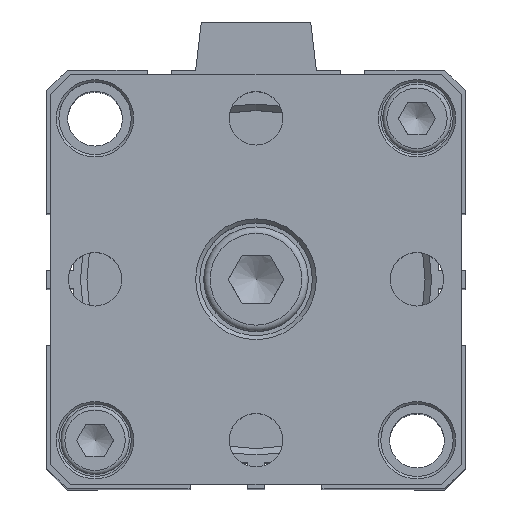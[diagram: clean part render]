
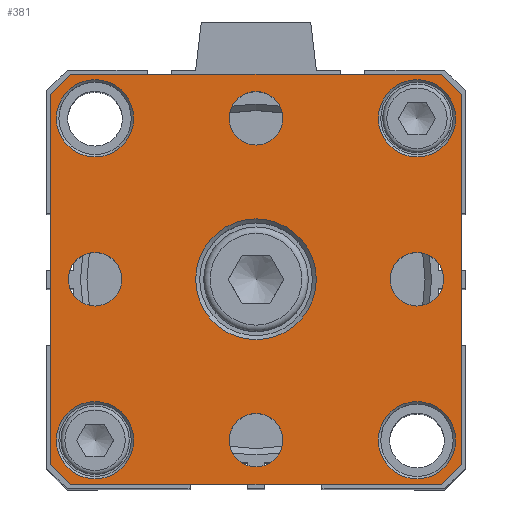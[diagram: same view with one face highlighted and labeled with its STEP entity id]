
A CAD part, top view. The second image highlights one B-rep face of the part: STEP entity #381.
In plain terms, the highlighted planar face has unit normal (0, 0, 1).
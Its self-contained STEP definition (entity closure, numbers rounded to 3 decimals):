
#207=CARTESIAN_POINT('',(25.398,21.555,106.1));
#208=VERTEX_POINT('',#207);
#209=CARTESIAN_POINT('',(20.598,21.555,106.1));
#210=DIRECTION('',(0.0,0.0,1.0));
#211=DIRECTION('',(-1.0,0.0,0.0));
#212=AXIS2_PLACEMENT_3D('',#209,#210,#211);
#213=CIRCLE('',#212,4.8);
#214=EDGE_CURVE('',#208,#208,#213,.T.);
#219=CARTESIAN_POINT('',(0.598,1.555,106.1));
#220=DIRECTION('',(0.0,0.0,1.0));
#221=DIRECTION('',(1.0,0.0,0.0));
#222=AXIS2_PLACEMENT_3D('',#219,#220,#221);
#223=PLANE('',#222);
#224=CARTESIAN_POINT('',(-24.902,24.555,106.1));
#225=VERTEX_POINT('',#224);
#226=CARTESIAN_POINT('',(-22.402,27.055,106.1));
#227=VERTEX_POINT('',#226);
#228=CARTESIAN_POINT('',(-24.902,24.555,106.1));
#229=DIRECTION('',(0.707,0.707,0.0));
#230=VECTOR('',#229,3.536);
#231=LINE('',#228,#230);
#232=EDGE_CURVE('',#225,#227,#231,.T.);
#233=ORIENTED_EDGE('',*,*,#232,.F.);
#234=CARTESIAN_POINT('',(-24.902,-21.445,106.1));
#235=VERTEX_POINT('',#234);
#236=CARTESIAN_POINT('',(-24.902,-21.445,106.1));
#237=DIRECTION('',(0.0,1.0,0.0));
#238=VECTOR('',#237,46.);
#239=LINE('',#236,#238);
#240=EDGE_CURVE('',#235,#225,#239,.T.);
#241=ORIENTED_EDGE('',*,*,#240,.F.);
#242=CARTESIAN_POINT('',(-22.402,-23.945,106.1));
#243=VERTEX_POINT('',#242);
#244=CARTESIAN_POINT('',(-22.402,-23.945,106.1));
#245=DIRECTION('',(-0.707,0.707,0.0));
#246=VECTOR('',#245,3.536);
#247=LINE('',#244,#246);
#248=EDGE_CURVE('',#243,#235,#247,.T.);
#249=ORIENTED_EDGE('',*,*,#248,.F.);
#250=CARTESIAN_POINT('',(23.598,-23.945,106.1));
#251=VERTEX_POINT('',#250);
#252=CARTESIAN_POINT('',(23.598,-23.945,106.1));
#253=DIRECTION('',(-1.0,0.0,0.0));
#254=VECTOR('',#253,46.);
#255=LINE('',#252,#254);
#256=EDGE_CURVE('',#251,#243,#255,.T.);
#257=ORIENTED_EDGE('',*,*,#256,.F.);
#258=CARTESIAN_POINT('',(26.098,-21.445,106.1));
#259=VERTEX_POINT('',#258);
#260=CARTESIAN_POINT('',(26.098,-21.445,106.1));
#261=DIRECTION('',(-0.707,-0.707,0.0));
#262=VECTOR('',#261,3.536);
#263=LINE('',#260,#262);
#264=EDGE_CURVE('',#259,#251,#263,.T.);
#265=ORIENTED_EDGE('',*,*,#264,.F.);
#266=CARTESIAN_POINT('',(26.098,24.555,106.1));
#267=VERTEX_POINT('',#266);
#268=CARTESIAN_POINT('',(26.098,24.555,106.1));
#269=DIRECTION('',(0.0,-1.0,0.0));
#270=VECTOR('',#269,46.);
#271=LINE('',#268,#270);
#272=EDGE_CURVE('',#267,#259,#271,.T.);
#273=ORIENTED_EDGE('',*,*,#272,.F.);
#274=CARTESIAN_POINT('',(23.598,27.055,106.1));
#275=VERTEX_POINT('',#274);
#276=CARTESIAN_POINT('',(23.598,27.055,106.1));
#277=DIRECTION('',(0.707,-0.707,0.0));
#278=VECTOR('',#277,3.536);
#279=LINE('',#276,#278);
#280=EDGE_CURVE('',#275,#267,#279,.T.);
#281=ORIENTED_EDGE('',*,*,#280,.F.);
#282=CARTESIAN_POINT('',(-22.402,27.055,106.1));
#283=DIRECTION('',(1.0,0.0,0.0));
#284=VECTOR('',#283,46.);
#285=LINE('',#282,#284);
#286=EDGE_CURVE('',#227,#275,#285,.T.);
#287=ORIENTED_EDGE('',*,*,#286,.F.);
#288=EDGE_LOOP('',(#233,#241,#249,#257,#265,#273,#281,#287));
#289=FACE_OUTER_BOUND('',#288,.T.);
#290=CARTESIAN_POINT('',(25.398,-18.445,106.1));
#291=VERTEX_POINT('',#290);
#292=CARTESIAN_POINT('',(20.598,-18.445,106.1));
#293=DIRECTION('',(0.0,0.0,1.0));
#294=DIRECTION('',(-1.0,0.0,0.0));
#295=AXIS2_PLACEMENT_3D('',#292,#293,#294);
#296=CIRCLE('',#295,4.8);
#297=EDGE_CURVE('',#291,#291,#296,.T.);
#298=ORIENTED_EDGE('',*,*,#297,.F.);
#299=EDGE_LOOP('',(#298));
#300=FACE_BOUND('',#299,.T.);
#301=CARTESIAN_POINT('',(-14.602,21.555,106.1));
#302=VERTEX_POINT('',#301);
#303=CARTESIAN_POINT('',(-19.402,21.555,106.1));
#304=DIRECTION('',(0.0,0.0,1.0));
#305=DIRECTION('',(-1.0,0.0,0.0));
#306=AXIS2_PLACEMENT_3D('',#303,#304,#305);
#307=CIRCLE('',#306,4.8);
#308=EDGE_CURVE('',#302,#302,#307,.T.);
#309=ORIENTED_EDGE('',*,*,#308,.F.);
#310=EDGE_LOOP('',(#309));
#311=FACE_BOUND('',#310,.T.);
#312=CARTESIAN_POINT('',(3.922,21.555,106.1));
#313=VERTEX_POINT('',#312);
#314=CARTESIAN_POINT('',(0.598,21.555,106.1));
#315=DIRECTION('',(0.0,0.0,-1.0));
#316=DIRECTION('',(1.0,0.0,0.0));
#317=AXIS2_PLACEMENT_3D('',#314,#315,#316);
#318=CIRCLE('',#317,3.324);
#319=EDGE_CURVE('',#313,#313,#318,.T.);
#320=ORIENTED_EDGE('',*,*,#319,.T.);
#321=EDGE_LOOP('',(#320));
#322=FACE_BOUND('',#321,.T.);
#323=CARTESIAN_POINT('',(-16.078,1.555,106.1));
#324=VERTEX_POINT('',#323);
#325=CARTESIAN_POINT('',(-19.402,1.555,106.1));
#326=DIRECTION('',(0.0,0.0,-1.0));
#327=DIRECTION('',(1.0,0.0,0.0));
#328=AXIS2_PLACEMENT_3D('',#325,#326,#327);
#329=CIRCLE('',#328,3.324);
#330=EDGE_CURVE('',#324,#324,#329,.T.);
#331=ORIENTED_EDGE('',*,*,#330,.T.);
#332=EDGE_LOOP('',(#331));
#333=FACE_BOUND('',#332,.T.);
#334=CARTESIAN_POINT('',(3.922,-18.445,106.1));
#335=VERTEX_POINT('',#334);
#336=CARTESIAN_POINT('',(0.598,-18.445,106.1));
#337=DIRECTION('',(0.0,0.0,-1.0));
#338=DIRECTION('',(1.0,0.0,0.0));
#339=AXIS2_PLACEMENT_3D('',#336,#337,#338);
#340=CIRCLE('',#339,3.324);
#341=EDGE_CURVE('',#335,#335,#340,.T.);
#342=ORIENTED_EDGE('',*,*,#341,.T.);
#343=EDGE_LOOP('',(#342));
#344=FACE_BOUND('',#343,.T.);
#345=CARTESIAN_POINT('',(23.922,1.555,106.1));
#346=VERTEX_POINT('',#345);
#347=CARTESIAN_POINT('',(20.598,1.555,106.1));
#348=DIRECTION('',(0.0,0.0,-1.0));
#349=DIRECTION('',(1.0,0.0,0.0));
#350=AXIS2_PLACEMENT_3D('',#347,#348,#349);
#351=CIRCLE('',#350,3.324);
#352=EDGE_CURVE('',#346,#346,#351,.T.);
#353=ORIENTED_EDGE('',*,*,#352,.T.);
#354=EDGE_LOOP('',(#353));
#355=FACE_BOUND('',#354,.T.);
#356=CARTESIAN_POINT('',(8.098,1.555,106.1));
#357=VERTEX_POINT('',#356);
#358=CARTESIAN_POINT('',(0.598,1.555,106.1));
#359=DIRECTION('',(0.0,0.0,1.0));
#360=DIRECTION('',(-1.0,0.0,0.0));
#361=AXIS2_PLACEMENT_3D('',#358,#359,#360);
#362=CIRCLE('',#361,7.5);
#363=EDGE_CURVE('',#357,#357,#362,.T.);
#364=ORIENTED_EDGE('',*,*,#363,.F.);
#365=EDGE_LOOP('',(#364));
#366=FACE_BOUND('',#365,.T.);
#367=CARTESIAN_POINT('',(-14.602,-18.445,106.1));
#368=VERTEX_POINT('',#367);
#369=CARTESIAN_POINT('',(-19.402,-18.445,106.1));
#370=DIRECTION('',(0.0,0.0,1.0));
#371=DIRECTION('',(-1.0,0.0,0.0));
#372=AXIS2_PLACEMENT_3D('',#369,#370,#371);
#373=CIRCLE('',#372,4.8);
#374=EDGE_CURVE('',#368,#368,#373,.T.);
#375=ORIENTED_EDGE('',*,*,#374,.F.);
#376=EDGE_LOOP('',(#375));
#377=FACE_BOUND('',#376,.T.);
#378=ORIENTED_EDGE('',*,*,#214,.F.);
#379=EDGE_LOOP('',(#378));
#380=FACE_BOUND('',#379,.T.);
#381=ADVANCED_FACE('',(#289,#300,#311,#322,#333,#344,#355,#366,#377,#380),#223,.T.);
